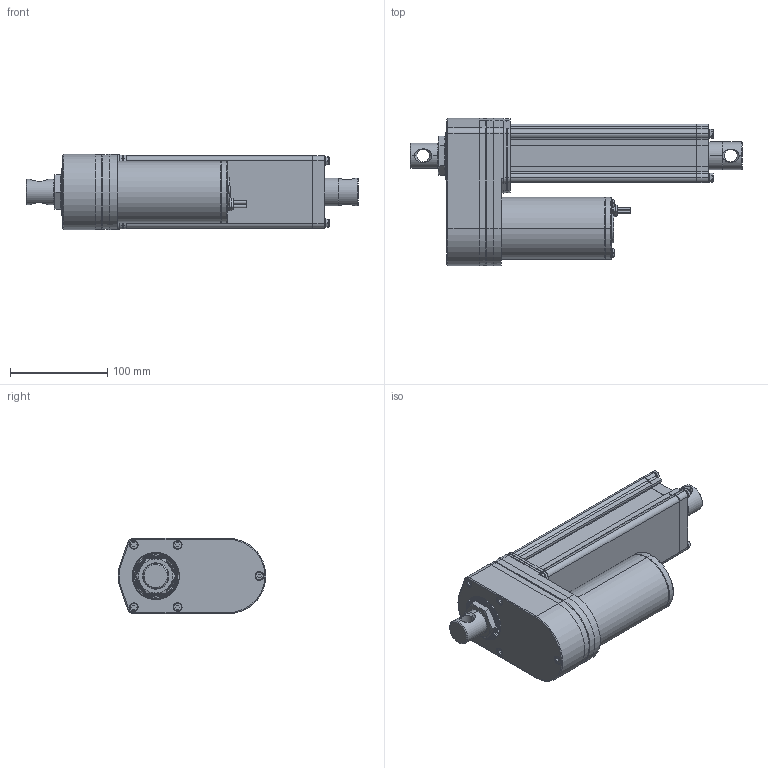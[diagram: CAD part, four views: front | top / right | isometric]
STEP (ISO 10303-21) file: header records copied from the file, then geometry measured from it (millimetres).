
FILE_DESCRIPTION((''),' ');
FILE_NAME('dszy12-150_std.stp',' ',('MSW'),('MSW'),' ','ACIS 14.0',' ');
FILE_SCHEMA(('automotive_design'));
Length unit declared in the file: inch
Products named in the file (2): dszy12-150_std
Bounding box: 341 x 151.7 x 77.2 mm (x, y, z)
Volume: 1771665 mm3; surface area: 186654 mm2
Topology: 2 solids, 2 shells, 1648 faces, 4015 edges, 2386 vertices
Faces by surface type: plane 1316, cylinder 218, cone 60, torus 30, bspline 24
Entity records: 60917 total; most frequent: CARTESIAN_POINT 8562, DIRECTION 8537, ORIENTED_EDGE 7982, EDGE_CURVE 3991, AXIS2_PLACEMENT_3D 2962, LINE 2613, VECTOR 2613, VERTEX_POINT 2386
